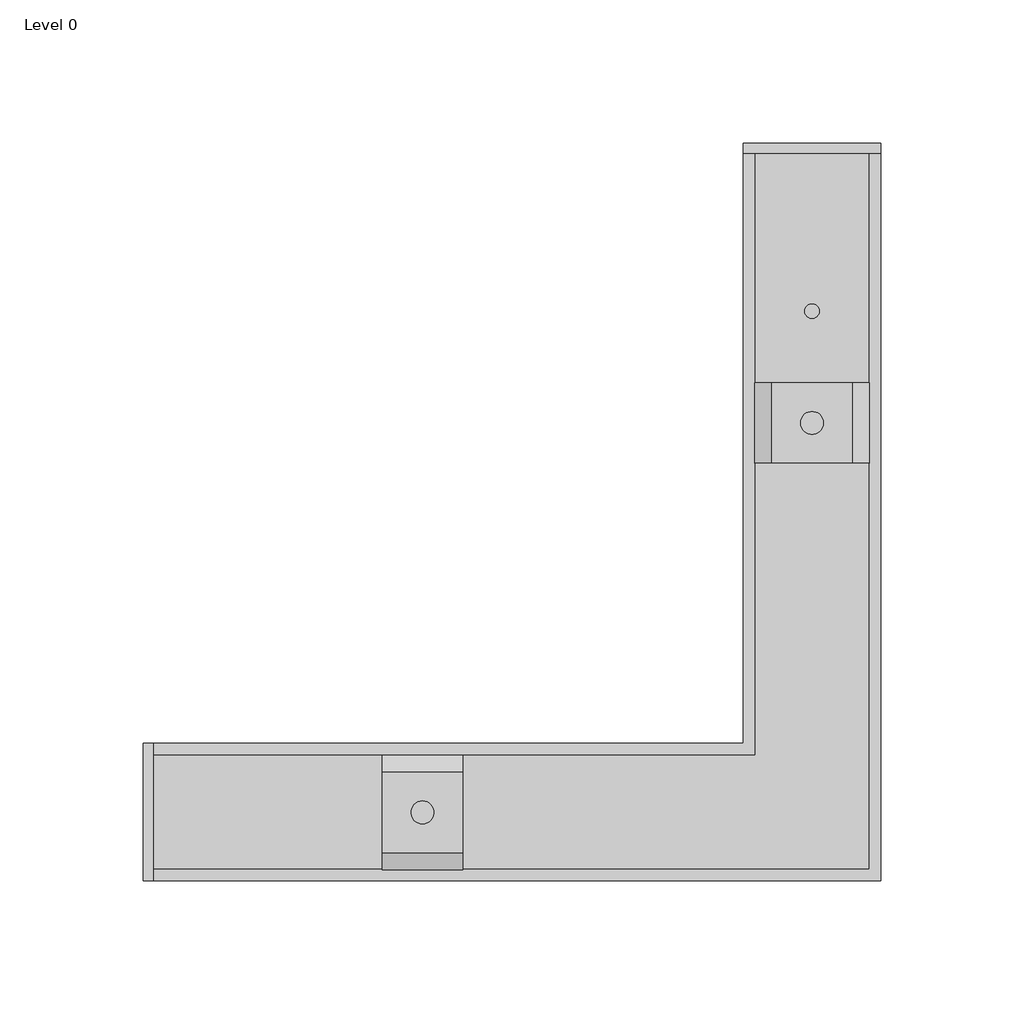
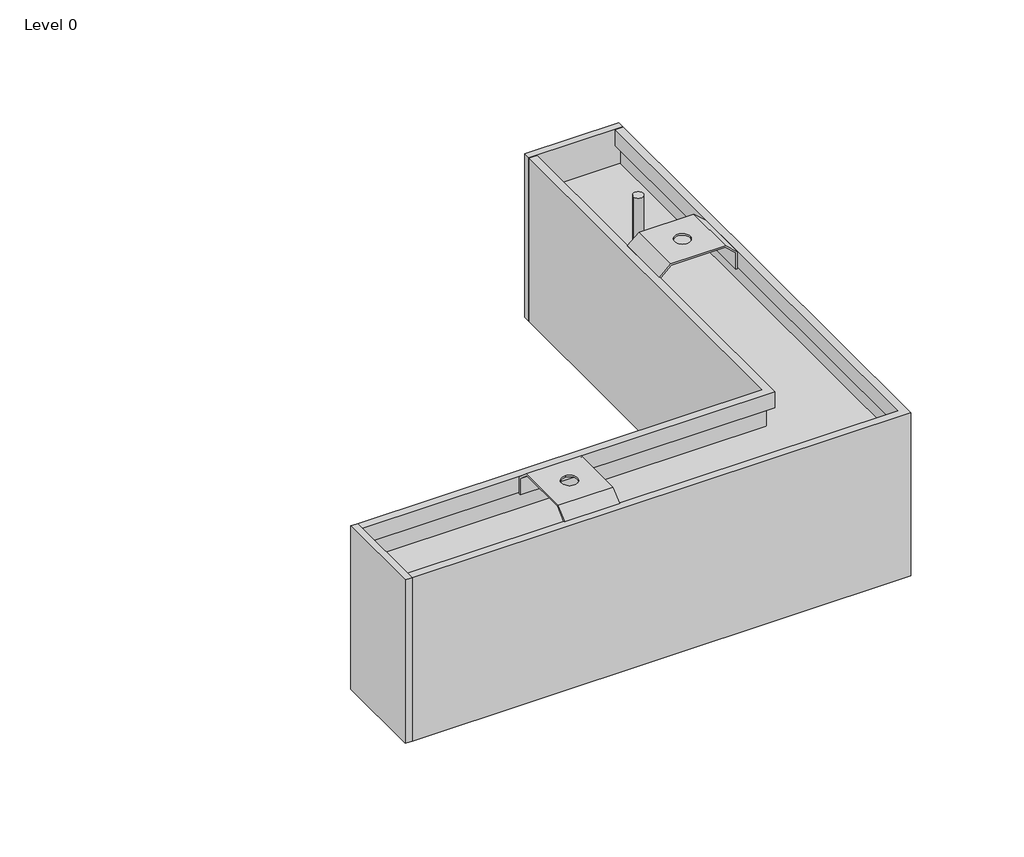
# One storey: 1 light fixture.
"""IFC4 building model written with IfcOpenShell, lengths in millimetres."""

from ifc_helpers import new_model, si_unit, origin, place, context, project, spatial, transform, mapped, element, save
from components import silver_anodized_3000_k_680_lm_58d030c8

model = new_model("IFC4")

# Units and contexts
model_context = context("Model", 3, world=origin())
ifc_project = project(units=[si_unit("LENGTHUNIT", "METRE", prefix="MILLI")], contexts=[model_context])

# Site, building, storey
site = spatial("IfcSite", under=ifc_project)
building = spatial("IfcBuilding", under=site)
storey = spatial("IfcBuildingStorey", under=building, Name="Level 0", Elevation=0.0)

# Light fixture
placement = place(None, origin())
silver_anodized_3000_k_680_lm_shape = silver_anodized_3000_k_680_lm_58d030c8(model_context)
element("IfcLightFixture", 1, ObjectType="KLUŚ - SERPENT - NT L90 : Silver Anodized - 3000 K - 680 lm", at=placement, inside=storey, context=model_context, shape_type="MappedRepresentation", body=[
    mapped(silver_anodized_3000_k_680_lm_shape, transform((0.0, 0.0, 93.0), x_axis=(1.0, 0.0, 0.0), y_axis=(0.0, -1.0, 0.0), z_axis=(0.0, 0.0, -1.0))),
])

save(model, "model.ifc")
